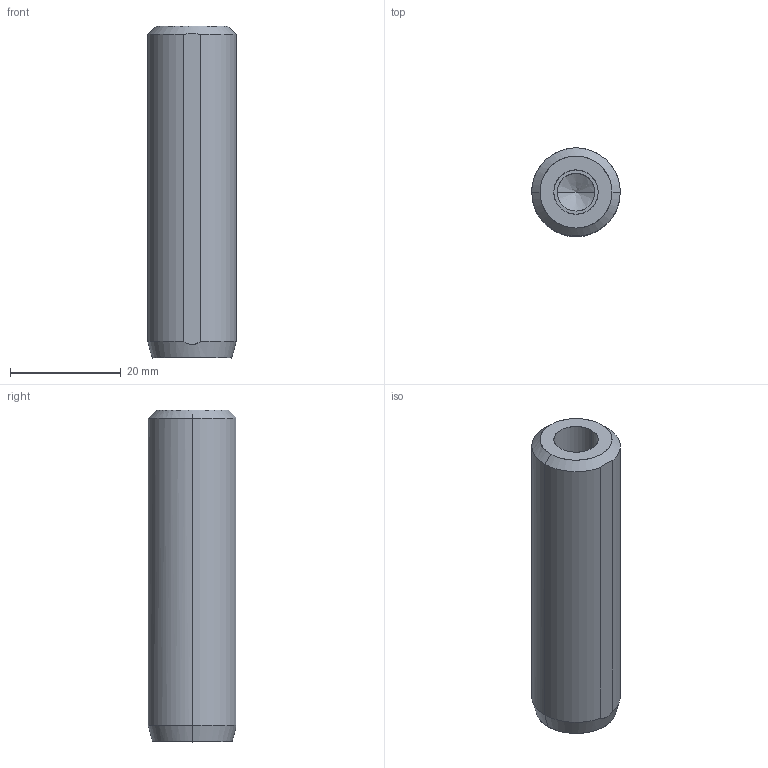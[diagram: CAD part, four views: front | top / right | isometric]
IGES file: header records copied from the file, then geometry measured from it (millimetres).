
Global section: file name: E:\UnigraphicsGraphicData\MISUMI_PRESS-PARTS\IGES\3d_mstm16-60_00437_r00.igs; native system: NX V5.0; preprocessor: UGS NX IGES V5.0; author: MISUMI; date: 20110105.161521; units: millimetre
Bounding box: 16 x 15.83 x 60 mm (x, y, z)
Surface area: 3776.3 mm2 (no closed solid volume)
Topology: 0 solids, 0 shells, 17 faces, 100 edges, 98 vertices
Faces by surface type: bspline 17
